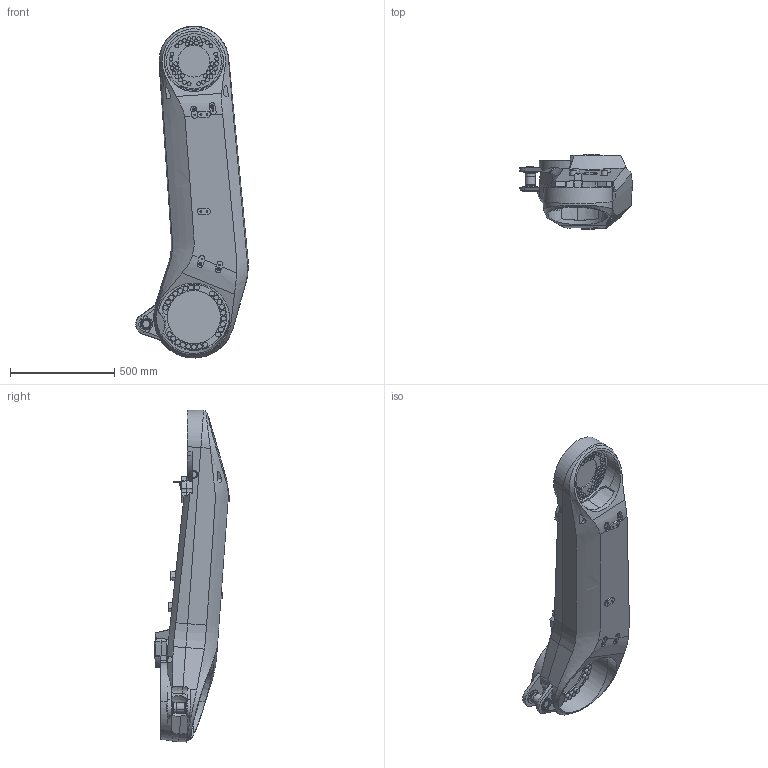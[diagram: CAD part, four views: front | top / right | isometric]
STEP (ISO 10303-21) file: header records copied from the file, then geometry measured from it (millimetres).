
FILE_DESCRIPTION (( 'STEP AP214' ), '1' );
FILE_NAME ('IRB6760_All_OC_00_LINK02_CAD.step', '2025-09-30T13:15:40', ( '' ), ( '' ), 'SwSTEP 2.0', 'SolidWorks 2024', '' );
FILE_SCHEMA (( 'AUTOMOTIVE_DESIGN' ));
Length unit declared in the file: millimetre
Products named in the file (1): IRB6760_All_OC_00_LINK02_CAD
Bounding box: 538.99 x 362.5 x 1589.29 mm (x, y, z)
Volume: 81944279.2 mm3; surface area: 2204161.8 mm2
Topology: 1 solids, 1 shells, 729 faces, 1748 edges, 1137 vertices
Faces by surface type: plane 327, cylinder 273, bspline 78, cone 44, torus 6, sphere 1
Entity records: 56215 total; most frequent: CARTESIAN_POINT 31776, ORIENTED_EDGE 3486, DIRECTION 3186, EDGE_CURVE 1743, AXIS2_PLACEMENT_3D 1202, VERTEX_POINT 1135, EDGE_LOOP 856, LINE 782
